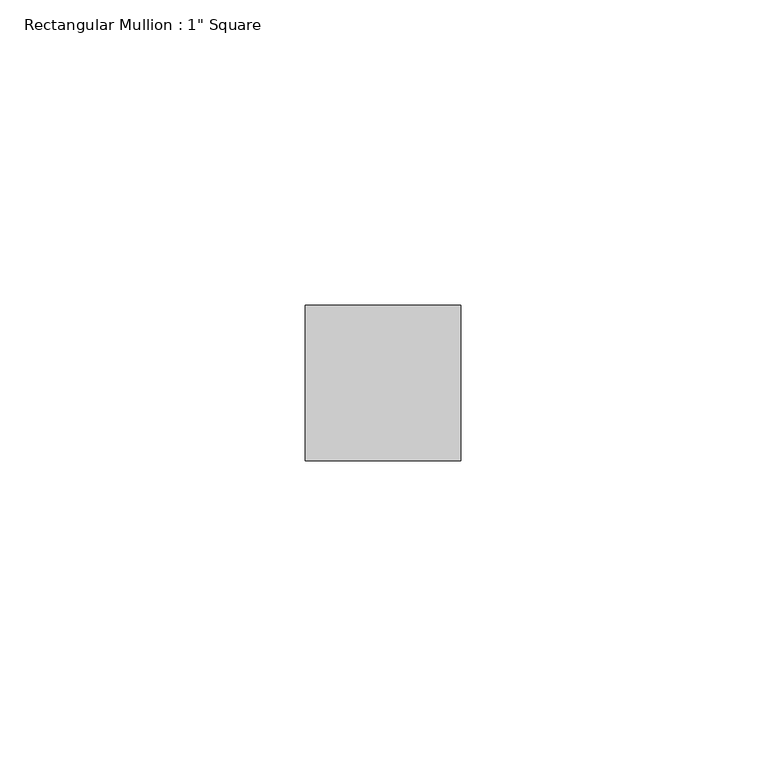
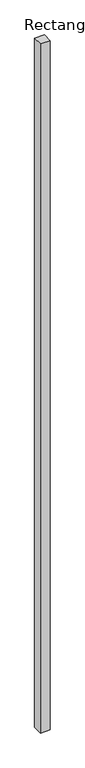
"""IFC4 building model written with IfcOpenShell, lengths in millimetres: member geometry."""

from ifc_helpers import new_model, si_unit, frame, origin, place, context, project, spatial, polyline, outline, extrude, source, transform, mapped, element, save


def member_12c77cbe(model_context):
    return source(origin(), model_context, "Body", "SweptSolid", [
        extrude(outline(polyline([(12.7, 12.7), (12.7, -12.7), (-12.7, -12.7), (-12.7, 12.7), (12.7, 12.7)])), frame((0.0, 0.0, -1897.8356935), z_axis=(0.0, 0.0, 1.0), x_axis=(1.0, 0.0, 0.0)), (0.0, 0.0, 1.0), 1897.8356935),
    ])


if __name__ == "__main__":
    model = new_model("IFC4")
    model_context = context("Model", 3, world=origin())
    ifc_project = project(units=[si_unit("LENGTHUNIT", "METRE", prefix="MILLI")], contexts=[model_context])
    site = spatial("IfcSite", under=ifc_project)
    building = spatial("IfcBuilding", under=site)
    placement = place(None, origin())
    member_shape = member_12c77cbe(model_context)
    element("IfcMember", 1, ObjectType="Rectangular Mullion : 1\" Square", at=placement, inside=building, context=model_context, shape_type="MappedRepresentation", body=[
        mapped(member_shape, transform((0.0, 0.0, 0.0), x_axis=(1.0, 0.0, 0.0), y_axis=(0.0, 1.0, 0.0), z_axis=(0.0, 0.0, 1.0))),
    ])
    save(model, "model.ifc")
